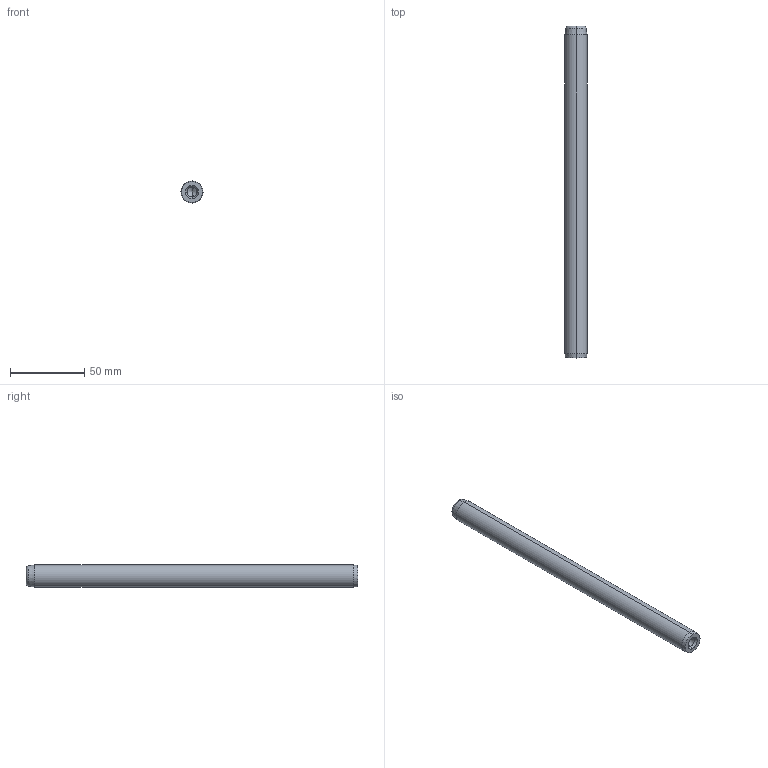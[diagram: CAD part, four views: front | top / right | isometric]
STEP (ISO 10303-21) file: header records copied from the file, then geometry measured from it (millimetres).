
FILE_DESCRIPTION (( 'STEP AP214' ), '1' );
FILE_NAME ('D14_15224.STEP', '2011-12-24T23:14:03', ( 'Dell' ), ( '' ), 'SwSTEP 2.0', 'SolidWorks 2010', '' );
FILE_SCHEMA (( 'AUTOMOTIVE_DESIGN' ));
Length unit declared in the file: metre
Products named in the file (1): D14_15224
Bounding box: 15 x 224 x 15 mm (x, y, z)
Volume: 37450.1 mm3; surface area: 11908.9 mm2
Topology: 1 solids, 1 shells, 22 faces, 46 edges, 24 vertices
Faces by surface type: cone 12, cylinder 6, torus 2, plane 2
Entity records: 588 total; most frequent: DIRECTION 112, CARTESIAN_POINT 89, ORIENTED_EDGE 84, AXIS2_PLACEMENT_3D 47, EDGE_CURVE 42, CIRCLE 24, EDGE_LOOP 24, VERTEX_POINT 24
